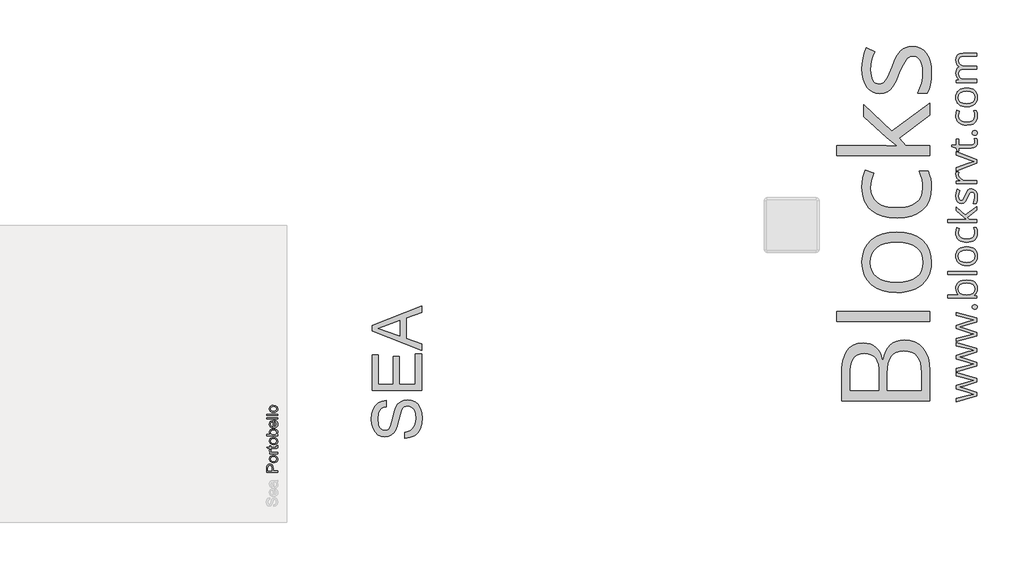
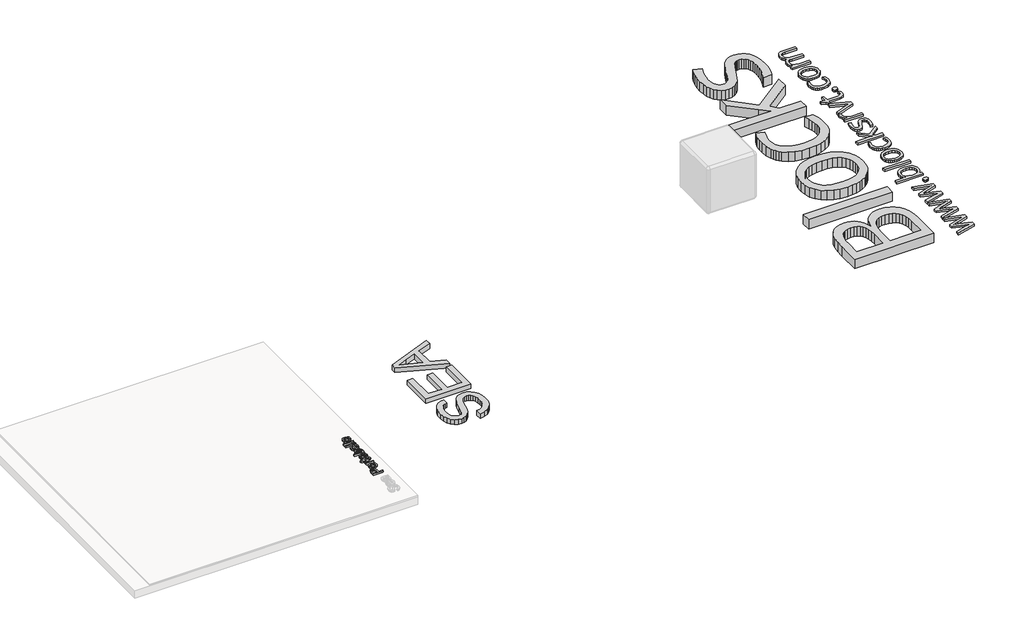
# One storey, part 7 of 7: 4 proxies.
"""IFC4 building model written with IfcOpenShell, lengths in millimetres."""

import ifcopenshell
import ifcopenshell.guid

model = None  # the IFC model being written
_history = None  # IfcOwnerHistory: only IFC2X3 demands one
_inside = {}  # id of a spatial element -> (the spatial element, [elements in it])
_under = {}  # id of a project, library or spatial element -> (it, [spatial elements below it])
_declared = {}  # id of a project -> (the project, [libraries it declares])
_typed = {}  # id of a type object -> (the type object, [elements of that type])
_made_of = {}  # id of a material, layer set ... -> (it, [elements and type objects made of it])


def new_model(schema):
    """Start an empty IFC model of exactly this schema.

    Asked for "IFC4X3", IfcOpenShell would pick the latest addendum, in which some entities
    have other attributes; the version numbers below select the first issue.
    IFC2X3 requires an IfcOwnerHistory on every rooted entity: one is made here for all.
    """
    global model, _history
    if schema == "IFC4X3":
        model = ifcopenshell.file(schema_version=(4, 3, 0, 0))
    else:
        model = ifcopenshell.file(schema=schema)
    _inside.clear()
    _under.clear()
    _declared.clear()
    _typed.clear()
    _made_of.clear()
    _history = None
    if model.schema == "IFC2X3":
        org = make("IfcOrganization", Name="unknown")
        user = make(
            "IfcPersonAndOrganization",
            ThePerson=make("IfcPerson", FamilyName="unknown"),
            TheOrganization=org,
        )
        app = make(
            "IfcApplication",
            ApplicationDeveloper=org,
            Version="unknown",
            ApplicationFullName="unknown",
            ApplicationIdentifier="unknown",
        )
        _history = make(
            "IfcOwnerHistory",
            OwningUser=user,
            OwningApplication=app,
            ChangeAction="ADDED",
            CreationDate=0,
        )
    return model


def make(cls, **values):
    """One entity of the class cls with the attributes given. An attribute that is None is left unset."""
    return model.create_entity(
        cls, **{name: value for name, value in values.items() if value is not None}
    )


def rooted(cls, **values):
    """An entity with a GlobalId (a new one), such as an element, a storey or a relation."""
    return make(cls, GlobalId=ifcopenshell.guid.new(), OwnerHistory=_history, **values)


def si_unit(unit_type, name, prefix=None):
    """IfcSIUnit, for example si_unit("LENGTHUNIT", "METRE", prefix="MILLI")."""
    return make("IfcSIUnit", UnitType=unit_type, Prefix=prefix, Name=name)


def assignment(units):
    """IfcUnitAssignment: the units of a project."""
    return None if units is None else make("IfcUnitAssignment", Units=units)


def point(xyz):
    """IfcCartesianPoint."""
    return None if xyz is None else make("IfcCartesianPoint", Coordinates=xyz)


def direction(xyz):
    """IfcDirection."""
    return None if xyz is None else make("IfcDirection", DirectionRatios=xyz)


def frame(location, z_axis=None, x_axis=None):
    """IfcAxis2Placement3D, a coordinate frame: its origin and axes. An axis left out is left unset."""
    return make(
        "IfcAxis2Placement3D",
        Location=point(location),
        Axis=direction(z_axis),
        RefDirection=direction(x_axis),
    )


def origin():
    """The frame at (0, 0, 0) with its axes left unset."""
    return frame((0.0, 0.0, 0.0))


def origin_with_axes():
    """The frame at (0, 0, 0) with the z axis (0, 0, 1) and the x axis (1, 0, 0) written out."""
    return frame((0.0, 0.0, 0.0), z_axis=(0.0, 0.0, 1.0), x_axis=(1.0, 0.0, 0.0))


def place(relative_to, where):
    """IfcLocalPlacement: puts the frame where relative to a parent placement (None: the world)."""
    return make(
        "IfcLocalPlacement", PlacementRelTo=relative_to, RelativePlacement=where
    )


def context(
    kind, dimensions, precision=None, world=None, true_north=None, identifier=None
):
    """IfcGeometricRepresentationContext, for example the 3D "Model" context."""
    return make(
        "IfcGeometricRepresentationContext",
        ContextIdentifier=identifier,
        ContextType=kind,
        CoordinateSpaceDimension=dimensions,
        Precision=precision,
        WorldCoordinateSystem=world,
        TrueNorth=true_north,
    )


def project(units=None, contexts=None):
    """IfcProject with its units and contexts."""
    return rooted(
        "IfcProject",
        Name="project",
        RepresentationContexts=contexts,
        UnitsInContext=assignment(units),
    )


def spatial(cls, under=None, at=None, **own):
    """A site, building, storey or space (cls), placed at a placement, below another one or the project."""
    s = rooted(cls, ObjectPlacement=at, **own)
    if under is not None:
        _under.setdefault(under.id(), (under, []))[1].append(s)
    return s


def polyline(points):
    """IfcPolyline through the points."""
    return make("IfcPolyline", Points=[point(p) for p in points])


def outline(outer, holes=None, kind="AREA"):
    """IfcArbitraryClosedProfileDef: a profile drawn as a closed curve; with holes, ...WithVoids."""
    if holes is None:
        return make("IfcArbitraryClosedProfileDef", ProfileType=kind, OuterCurve=outer)
    return make(
        "IfcArbitraryProfileDefWithVoids",
        ProfileType=kind,
        OuterCurve=outer,
        InnerCurves=holes,
    )


def extrude(swept, where, along, depth):
    """IfcExtrudedAreaSolid: the profile swept, set in the frame where, extruded along a direction by depth."""
    return make(
        "IfcExtrudedAreaSolid",
        SweptArea=swept,
        Position=where,
        ExtrudedDirection=direction(along),
        Depth=depth,
    )


def shape(context_of_items, identifier, shape_type, items):
    """IfcShapeRepresentation: the items that make up one representation, for example the "Body"."""
    return make(
        "IfcShapeRepresentation",
        ContextOfItems=context_of_items,
        RepresentationIdentifier=identifier,
        RepresentationType=shape_type,
        Items=items,
    )


def made_of(thing, what):
    """Note that an element or type object is made of a material, layer set ...; save() writes the relation."""
    if what is not None:
        _made_of.setdefault(what.id(), (what, []))[1].append(thing)
    return thing


def element(
    cls,
    number,
    at=None,
    inside=None,
    cuts=None,
    type_object=None,
    material=None,
    context=None,
    identifier="Body",
    shape_type=None,
    held_by="IfcProductDefinitionShape",
    body=None,
    shapes=None,
    **own,
):
    """One element of the class cls, such as IfcWall. Its Tag is "e" and its number.

    at: its placement. inside: the storey or other place that contains it. cuts: it is an
    opening in that element (IfcRelVoidsElement). A single representation is given by context,
    identifier, shape_type and body (its items); several are given by shapes. held_by: the class
    of the entity that holds the representations. save() writes the other relations.
    """
    e = rooted(cls, Tag="e%d" % number, ObjectPlacement=at, **own)
    if body is not None:
        shapes = [shape(context, identifier, shape_type, body)]
    if shapes is not None:
        e.Representation = make(held_by, Representations=shapes)
    if inside is not None:
        _inside.setdefault(inside.id(), (inside, []))[1].append(e)
    if cuts is not None:
        rooted(
            "IfcRelVoidsElement", RelatingBuildingElement=cuts, RelatedOpeningElement=e
        )
    if type_object is not None:
        _typed.setdefault(type_object.id(), (type_object, []))[1].append(e)
    return made_of(e, material)


def aggregate(whole, parts):
    """IfcRelAggregates: a whole, such as a stair, and the parts it consists of."""
    return rooted("IfcRelAggregates", RelatingObject=whole, RelatedObjects=parts)


def save(model, path):
    """Write the relations noted so far, then the file.

    IfcRelAggregates (storeys below a building ...), IfcRelContainedInSpatialStructure (elements
    in a storey), IfcRelDefinesByType, IfcRelAssociatesMaterial and IfcRelDeclares: one each for
    every whole, place, type object, material and project.
    """
    for whole, parts in _under.values():
        aggregate(whole, parts)
    for where, things in _inside.values():
        rooted(
            "IfcRelContainedInSpatialStructure",
            RelatedElements=things,
            RelatingStructure=where,
        )
    for kind, things in _typed.values():
        rooted("IfcRelDefinesByType", RelatedObjects=things, RelatingType=kind)
    for what, things in _made_of.values():
        rooted("IfcRelAssociatesMaterial", RelatedObjects=things, RelatingMaterial=what)
    for by, libraries in _declared.values():
        rooted("IfcRelDeclares", RelatingContext=by, RelatedDefinitions=libraries)
    model.write(path)


model = new_model("IFC4")

# Units and contexts
model_context = context("Model", 3, world=origin())
ifc_project = project(units=[si_unit("LENGTHUNIT", "METRE", prefix="MILLI")], contexts=[model_context])

# Site, building, storey
site = spatial("IfcSite", under=ifc_project)
building = spatial("IfcBuilding", under=site)
storey = spatial("IfcBuildingStorey", under=building, Name="PORTOBELLO - SHOWROOM", Elevation=0.0)

# Proxies
placement = place(None, origin())
element("IfcBuildingElementProxy", 1, Name="10mm Arial", ObjectType="10mm Arial", at=placement, inside=storey, context=model_context, shape_type="SweptSolid", body=[
    extrude(outline(polyline([(77181.6975876, 8923.0326536), (77081.2412774, 8923.0326536), (77081.2412774, 8960.2623116), (77082.1977706, 8975.271897), (77086.8943974, 8987.4733165), (77096.6064821, 8995.3827794), (77110.303955, 8998.3748863), (77122.1436239, 8996.354601), (77132.0089927, 8990.2937451), (77138.6676569, 8978.959914), (77140.8872116, 8961.1207029), (77140.8872116, 8935.5896924), (77181.6975876, 8935.5896924), (77181.6975876, 8923.0326536)]), holes=[polyline([(77128.3301728, 8935.5896924), (77128.3301728, 8961.8564669), (77123.7193851, 8980.3486685), (77118.1704984, 8984.4505527), (77110.7454134, 8985.8178475), (77100.3466157, 8982.5927487), (77094.6567075, 8974.1192), (77093.7983162, 8961.5621613), (77093.7983162, 8935.5896924), (77128.3301728, 8935.5896924)])]), frame((0.0, 0.0, 15.0), z_axis=(0.0, 0.0, 1.0), x_axis=(1.0, 0.0, 0.0)), (0.0, 0.0, 1.0), 20.0),
    extrude(outline(polyline([(77144.8112862, 9010.931925), (77127.0241917, 9013.6481204), (77114.5223352, 9021.7967066), (77108.3971, 9031.8644106), (77106.355355, 9043.9186773), (77108.8416241, 9057.1103125), (77116.3004316, 9067.647066), (77128.1431661, 9074.5540504), (77143.7812166, 9076.8563786), (77166.1239164, 9072.7851512), (77178.7667943, 9060.9270882), (77183.2672174, 9043.9186773), (77180.7901453, 9030.5676265), (77173.358929, 9020.0431358), (77161.2678741, 9013.2097277), (77144.8112862, 9010.931925)]), holes=[polyline([(77144.7867607, 9023.4889638), (77156.1512487, 9024.9420977), (77164.2477183, 9029.3014993), (77169.0945635, 9035.8620616), (77170.7101786, 9043.9186773), (77169.0853665, 9051.9385048), (77164.2109301, 9058.4868043), (77156.0071616, 9062.8462059), (77144.3943533, 9064.2993398), (77133.3609591, 9062.8370089), (77125.3748541, 9058.4500161), (77120.5280088, 9051.8925195), (77118.9123937, 9043.9186773), (77120.5218774, 9035.8620616), (77125.3503286, 9029.3014993), (77133.4284041, 9024.9420977), (77144.7867607, 9023.4889638)])]), frame((0.0, 0.0, 15.0), z_axis=(0.0, 0.0, 1.0), x_axis=(1.0, 0.0, 0.0)), (0.0, 0.0, 1.0), 20.0),
    extrude(outline(polyline([(77181.6975876, 9090.9830472), (77107.9249848, 9090.9830472), (77107.9249848, 9101.9704561), (77118.8388173, 9101.9704561), (77108.7833761, 9109.7695544), (77106.355355, 9117.6177036), (77110.2303786, 9130.2237933), (77121.4875677, 9126.0299386), (77118.9123937, 9117.2007707), (77121.3894658, 9110.1006482), (77128.2565964, 9105.5756997), (77142.9228253, 9103.5400859), (77181.6975876, 9103.5400859), (77181.6975876, 9090.9830472)])), frame((0.0, 0.0, 15.0), z_axis=(0.0, 0.0, 1.0), x_axis=(1.0, 0.0, 0.0)), (0.0, 0.0, 1.0), 20.0),
    extrude(outline(polyline([(77171.2252134, 9164.7556499), (77182.0654696, 9166.3252798), (77183.2672174, 9156.9320262), (77181.1825528, 9146.4106011), (77175.7133738, 9141.1621513), (77161.4640778, 9139.6415724), (77120.4820236, 9139.6415724), (77120.4820236, 9130.2237933), (77110.2303786, 9130.2237933), (77107.9249848, 9130.2237933), (77107.9249848, 9139.6415724), (77089.9968689, 9139.6415724), (77082.6147035, 9152.1986112), (77107.9249848, 9152.1986112), (77107.9249848, 9164.7556499), (77120.4820236, 9164.7556499), (77120.4820236, 9152.1986112), (77161.0961958, 9152.1986112), (77167.5709189, 9152.8607988), (77169.8640501, 9155.0067771), (77170.7101786, 9159.286471), (77171.2252134, 9164.7556499)])), frame((0.0, 0.0, 15.0), z_axis=(0.0, 0.0, 1.0), x_axis=(1.0, 0.0, 0.0)), (0.0, 0.0, 1.0), 20.0),
    extrude(outline(polyline([(77144.8112862, 9174.173429), (77127.0241917, 9176.8896244), (77114.5223352, 9185.0382106), (77108.3971, 9195.1059145), (77106.355355, 9207.1601813), (77108.8416241, 9220.3518165), (77116.3004316, 9230.8885699), (77128.1431661, 9237.7955544), (77143.7812166, 9240.0978826), (77166.1239164, 9236.0266551), (77178.7667943, 9224.1685922), (77183.2672174, 9207.1601813), (77180.7901453, 9193.8091305), (77173.358929, 9183.2846398), (77161.2678741, 9176.4512317), (77144.8112862, 9174.173429)]), holes=[polyline([(77144.7867607, 9186.7304678), (77156.1512487, 9188.1836017), (77164.2477183, 9192.5430033), (77169.0945635, 9199.1035656), (77170.7101786, 9207.1601813), (77169.0853665, 9215.1800088), (77164.2109301, 9221.7283083), (77156.0071616, 9226.0877099), (77144.3943533, 9227.5408438), (77133.3609591, 9226.0785129), (77125.3748541, 9221.6915201), (77120.5280088, 9215.1340235), (77118.9123937, 9207.1601813), (77120.5218774, 9199.1035656), (77125.3503286, 9192.5430033), (77133.4284041, 9188.1836017), (77144.7867607, 9186.7304678)])]), frame((0.0, 0.0, 15.0), z_axis=(0.0, 0.0, 1.0), x_axis=(1.0, 0.0, 0.0)), (0.0, 0.0, 1.0), 20.0),
    extrude(outline(polyline([(77181.6975876, 9266.7815899), (77181.6975876, 9254.2245512), (77081.2412774, 9254.2245512), (77081.2412774, 9266.7815899), (77118.4954608, 9266.7815899), (77109.3903814, 9275.5739696), (77106.355355, 9286.5000649), (77109.0899444, 9299.0816291), (77116.7786781, 9308.8427647), (77128.734843, 9314.8392412), (77143.7076402, 9317.009745), (77160.4707964, 9314.7625992), (77172.9419961, 9308.0211616), (77180.6859121, 9298.1282016), (77183.2672174, 9286.4264885), (77179.9378854, 9275.2612699), (77169.9498892, 9266.7815899), (77181.6975876, 9266.7815899)]), holes=[polyline([(77144.2962514, 9266.7815899), (77161.8564853, 9270.2151552), (77168.4967553, 9276.7941116), (77170.7101786, 9285.347368), (77169.0792351, 9292.5946433), (77164.1864046, 9298.7873235), (77156.0623439, 9303.0363606), (77144.7377098, 9304.4527062), (77133.2475288, 9303.0946085), (77125.2154386, 9299.0203155), (77120.4881549, 9293.0207732), (77118.9123937, 9285.8869282), (77120.5433372, 9278.6396529), (77125.4361678, 9272.4469727), (77133.4130757, 9268.1979356), (77144.2962514, 9266.7815899)])]), frame((0.0, 0.0, 15.0), z_axis=(0.0, 0.0, 1.0), x_axis=(1.0, 0.0, 0.0)), (0.0, 0.0, 1.0), 20.0),
    extrude(outline(polyline([(77159.7227697, 9382.7870458), (77161.2923996, 9395.0988299), (77170.5691572, 9390.6627861), (77177.5037328, 9383.5841234), (77181.8263463, 9374.0222572), (77183.2672174, 9362.1366031), (77180.7809483, 9347.4029292), (77173.3221408, 9336.0660324), (77161.375173, 9328.8371512), (77145.4244228, 9326.4275241), (77128.9371781, 9328.8616766), (77116.6069999, 9336.1641342), (77108.9182662, 9347.3477469), (77106.355355, 9361.4253646), (77108.9121348, 9375.0645895), (77116.5824744, 9385.9630936), (77128.8881272, 9393.1092014), (77145.3508464, 9395.4912373), (77148.7353608, 9395.4176609), (77148.7353608, 9338.9845629), (77158.1347458, 9341.1581323), (77165.0447959, 9346.2073127), (77169.293833, 9353.4944419), (77170.7101786, 9362.3818578), (77168.0859537, 9374.6936419), (77159.7227697, 9382.7870458)]), holes=[polyline([(77136.178322, 9338.9845629), (77136.178322, 9382.9341986), (77124.7985056, 9377.906478), (77120.3839217, 9370.5856262), (77118.9123937, 9361.3763136), (77123.6090205, 9345.9130071), (77129.0996593, 9341.0477677), (77136.178322, 9338.9845629)])]), frame((0.0, 0.0, 15.0), z_axis=(0.0, 0.0, 1.0), x_axis=(1.0, 0.0, 0.0)), (0.0, 0.0, 1.0), 20.0),
    extrude(outline(polyline([(77181.6975876, 9408.0482761), (77081.2412774, 9408.0482761), (77081.2412774, 9420.6053149), (77181.6975876, 9420.6053149), (77181.6975876, 9408.0482761)])), frame((0.0, 0.0, 15.0), z_axis=(0.0, 0.0, 1.0), x_axis=(1.0, 0.0, 0.0)), (0.0, 0.0, 1.0), 20.0),
    extrude(outline(polyline([(77181.6975876, 9439.440873), (77081.2412774, 9439.440873), (77081.2412774, 9451.9979118), (77181.6975876, 9451.9979118), (77181.6975876, 9439.440873)])), frame((0.0, 0.0, 15.0), z_axis=(0.0, 0.0, 1.0), x_axis=(1.0, 0.0, 0.0)), (0.0, 0.0, 1.0), 20.0),
    extrude(outline(polyline([(77144.8112862, 9467.6942102), (77127.0241917, 9470.4104056), (77114.5223352, 9478.5589918), (77108.3971, 9488.6266958), (77106.355355, 9500.6809625), (77108.8416241, 9513.8725977), (77116.3004316, 9524.4093512), (77128.1431661, 9531.3163356), (77143.7812166, 9533.6186638), (77166.1239164, 9529.5474364), (77178.7667943, 9517.6893734), (77183.2672174, 9500.6809625), (77180.7901453, 9487.3299117), (77173.358929, 9476.805421), (77161.2678741, 9469.9720129), (77144.8112862, 9467.6942102)]), holes=[polyline([(77144.7867607, 9480.251249), (77156.1512487, 9481.7043829), (77164.2477183, 9486.0637845), (77169.0945635, 9492.6243468), (77170.7101786, 9500.6809625), (77169.0853665, 9508.70079), (77164.2109301, 9515.2490895), (77156.0071616, 9519.6084911), (77144.3943533, 9521.061625), (77133.3609591, 9519.5992941), (77125.3748541, 9515.2123013), (77120.5280088, 9508.6548047), (77118.9123937, 9500.6809625), (77120.5218774, 9492.6243468), (77125.3503286, 9486.0637845), (77133.4284041, 9481.7043829), (77144.7867607, 9480.251249)])]), frame((0.0, 0.0, 15.0), z_axis=(0.0, 0.0, 1.0), x_axis=(1.0, 0.0, 0.0)), (0.0, 0.0, 1.0), 20.0),
])
element("IfcBuildingElementProxy", 2, Name="25mm OpenSans", ObjectType="25mm OpenSans", at=placement, inside=storey, context=model_context, shape_type="SweptSolid", body=[
    extrude(outline(polyline([(83537.9307693, 9745.1453176), (83428.119126, 9710.6652112), (83382.3955066, 9698.4472604), (83428.4939098, 9685.0300016), (83537.9307693, 9649.5005007), (83537.9307693, 9616.594486), (83350.8387135, 9565.2491101), (83350.8387135, 9595.0818979), (83458.176784, 9622.8158965), (83507.8731113, 9633.7595825), (83482.6876423, 9641.1803011), (83458.176784, 9648.5260629), (83350.8387135, 9683.0061693), (83350.8387135, 9713.8883516), (83458.2517408, 9747.5439337), (83507.5732843, 9760.5864088), (83488.6092258, 9765.683468), (83350.8387135, 9801.4378392), (83350.8387135, 9830.9708), (83537.9307693, 9778.9508133), (83537.9307693, 9745.1453176)])), origin_with_axes(), (0.0, 0.0, 1.0), 20.0),
    extrude(outline(polyline([(83537.9307693, 10018.5875531), (83428.119126, 9984.1074466), (83382.3955066, 9971.8894959), (83428.4939098, 9958.4722371), (83537.9307693, 9922.9427361), (83537.9307693, 9890.0367214), (83350.8387135, 9838.6913456), (83350.8387135, 9868.5241333), (83458.176784, 9896.258132), (83507.8731113, 9907.2018179), (83482.6876423, 9914.6225365), (83458.176784, 9921.9682983), (83350.8387135, 9956.4484047), (83350.8387135, 9987.330587), (83458.2517408, 10020.9861692), (83507.5732843, 10034.0286442), (83488.6092258, 10039.1257034), (83350.8387135, 10074.8800747), (83350.8387135, 10104.4130354), (83537.9307693, 10052.3930487), (83537.9307693, 10018.5875531)])), origin_with_axes(), (0.0, 0.0, 1.0), 20.0),
    extrude(outline(polyline([(83537.9307693, 10292.0297885), (83428.119126, 10257.5496821), (83382.3955066, 10245.3317313), (83428.4939098, 10231.9144725), (83537.9307693, 10196.3849715), (83537.9307693, 10163.4789569), (83350.8387135, 10112.133581), (83350.8387135, 10141.9663687), (83458.176784, 10169.7003674), (83507.8731113, 10180.6440533), (83482.6876423, 10188.0647719), (83458.176784, 10195.4105337), (83350.8387135, 10229.8906401), (83350.8387135, 10260.7728224), (83458.2517408, 10294.4284046), (83507.5732843, 10307.4708796), (83488.6092258, 10312.5679388), (83350.8387135, 10348.3223101), (83350.8387135, 10377.8552708), (83537.9307693, 10325.8352842), (83537.9307693, 10292.0297885)])), origin_with_axes(), (0.0, 0.0, 1.0), 20.0),
    extrude(outline(polyline([(83518.8167973, 10407.0134478), (83508.4071782, 10408.3158214), (83500.8646549, 10412.2229421), (83496.2829234, 10418.5661574), (83494.7556795, 10427.1768144), (83496.2829234, 10436.0404504), (83500.8646549, 10442.6928623), (83508.4071782, 10446.8529621), (83518.8167973, 10448.239662), (83529.0202853, 10446.8248533), (83536.5440694, 10442.5804272), (83541.1820185, 10435.8999065), (83542.7280015, 10427.1768144), (83537.1437234, 10412.7476394), (83529.7698528, 10408.4469957), (83518.8167973, 10407.0134478)])), origin_with_axes(), (0.0, 0.0, 1.0), 20.0),
    extrude(outline(polyline([(83346.0414813, 10595.3797684), (83347.6413395, 10612.9641542), (83352.4409141, 10628.4638053), (83360.4402051, 10641.8787217), (83371.6392125, 10653.2089035), (83385.7615333, 10662.210741), (83402.5307644, 10668.640625), (83444.0099577, 10673.7845322), (83485.6296948, 10668.593777), (83502.5183883, 10662.1053331), (83516.792965, 10653.0215116), (83528.1395435, 10641.6374547), (83536.2442424, 10628.2483047), (83541.1070618, 10612.8540615), (83542.7280015, 10595.4547252), (83541.0133658, 10577.8117794), (83535.8694586, 10561.7616646), (83527.1651057, 10547.7541214), (83514.7691326, 10536.2388902), (83514.7691326, 10534.1401011), (83537.9307693, 10528.1435609), (83537.9307693, 10507.8302808), (83274.0829983, 10507.8302808), (83274.0829983, 10536.1639334), (83336.6718872, 10536.1639334), (83374.4500908, 10534.8147119), (83362.0213241, 10547.369968), (83353.1436337, 10560.9746187), (83347.8170194, 10576.9778855), (83346.0414813, 10595.3797684)]), holes=[polyline([(83370.0276423, 10591.4070605), (83374.2626989, 10566.1372651), (83386.9678685, 10549.0939734), (83409.6985039, 10539.3964434), (83444.0099577, 10536.1639334), (83478.4619553, 10539.4901394), (83501.4643089, 10549.4687571), (83514.4224576, 10566.7743975), (83518.7418405, 10592.0816713), (83513.8977604, 10615.1589816), (83499.3655199, 10631.471445), (83475.7635122, 10641.168975), (83443.7101307, 10644.401485), (83411.2632261, 10641.168975), (83388.2796117, 10631.471445), (83374.5906347, 10614.990329), (83370.0276423, 10591.4070605)])]), origin_with_axes(), (0.0, 0.0, 1.0), 20.0),
    extrude(outline(polyline([(83537.9307693, 10751.0649447), (83537.9307693, 10722.731292), (83274.0829983, 10722.731292), (83274.0829983, 10751.0649447), (83537.9307693, 10751.0649447)])), origin_with_axes(), (0.0, 0.0, 1.0), 20.0),
    extrude(outline(polyline([(83444.2348279, 10976.0101608), (83466.1620206, 10974.5695857), (83485.5453685, 10970.2478604), (83502.3848716, 10963.0449849), (83516.6805298, 10952.9609592), (83528.0762987, 10940.3424583), (83536.2161336, 10925.5361572), (83541.1000346, 10908.5420558), (83542.7280015, 10889.3601542), (83539.739101, 10865.6644506), (83530.7723994, 10844.7983645), (83516.2214197, 10827.5676808), (83496.4796849, 10814.7781848), (83472.2499144, 10806.8515082), (83444.2348279, 10804.2092826), (83422.3170048, 10805.6381457), (83402.9617657, 10809.9247351), (83386.1691106, 10817.0690506), (83371.9390395, 10827.0710923), (83360.6088578, 10839.6122941), (83352.5158709, 10854.3740897), (83347.6600787, 10871.3564791), (83346.0414813, 10890.5594622), (83347.6975571, 10909.1557642), (83352.6657844, 10925.7422882), (83360.9461632, 10940.3190343), (83372.5386936, 10952.8860025), (83386.9561565, 10963.0028217), (83403.7113333, 10970.2291212), (83422.8042237, 10974.5649009), (83444.2348279, 10976.0101608)]), holes=[polyline([(83444.0099577, 10833.6672866), (83476.1664048, 10837.2464716), (83499.6278685, 10847.9840265), (83513.9633475, 10865.655081), (83518.7418405, 10890.034765), (83513.9820867, 10914.4331881), (83499.7028252, 10932.1604602), (83476.2601007, 10942.9542327), (83444.0099577, 10946.5521568), (83412.0877504, 10942.9542327), (83388.8792657, 10932.1604602), (83374.7405482, 10914.3394922), (83370.0276423, 10889.6599812), (83374.674961, 10865.3271452), (83388.6169171, 10847.7966346), (83411.7598146, 10837.1996236), (83444.0099577, 10833.6672866)])]), origin_with_axes(), (0.0, 0.0, 1.0), 20.0),
    extrude(outline(polyline([(83542.7280015, 11101.4128088), (83541.1421977, 11082.0692817), (83536.3847863, 11065.0400443), (83528.4557673, 11050.3250967), (83517.3551406, 11037.9244389), (83503.3546246, 11028.0863651), (83486.7259374, 11021.0591694), (83445.5840495, 11015.437413), (83423.1368443, 11016.8639337), (83403.3927671, 11021.1434958), (83386.3518177, 11028.2760993), (83372.0139963, 11038.2617443), (83360.651021, 11050.88493), (83352.5346101, 11065.9301558), (83347.6647635, 11083.3974217), (83346.0414813, 11103.2867276), (83348.8148812, 11130.5335074), (83355.3361187, 11151.8587037), (83378.7975824, 11143.0887635), (83372.5386936, 11122.3632213), (83370.0276423, 11102.5371601), (83374.7171242, 11077.3188975), (83388.7855698, 11059.3058527), (83412.2329791, 11048.4980259), (83445.0593522, 11044.8954169), (83476.5224493, 11048.4090147), (83499.7028252, 11058.9498082), (83513.9820867, 11076.3866229), (83518.7418405, 11100.5882845), (83516.2120501, 11124.5557063), (83508.6226789, 11149.0853038), (83533.2834506, 11149.0853038), (83540.3668638, 11127.6851508), (83542.7280015, 11101.4128088)])), origin_with_axes(), (0.0, 0.0, 1.0), 20.0),
    extrude(outline(polyline([(83444.0849144, 11220.669003), (83416.2010023, 11243.5308127), (83350.8387135, 11303.4962152), (83350.8387135, 11336.8519704), (83430.5926989, 11261.5953902), (83537.9307693, 11342.0989431), (83537.9307693, 11307.9936204), (83451.5805897, 11242.4064614), (83469.5702105, 11221.4185706), (83537.9307693, 11221.4185706), (83537.9307693, 11193.3847449), (83274.0829983, 11193.3847449), (83274.0829983, 11221.4185706), (83415.076651, 11221.4185706), (83444.0849144, 11220.669003)])), origin_with_axes(), (0.0, 0.0, 1.0), 20.0),
    extrude(outline(polyline([(83487.4848745, 11502.3564813), (83510.974447, 11497.4561836), (83528.3737833, 11482.7552904), (83539.139447, 11459.2095003), (83542.7280015, 11427.7745119), (83539.7672098, 11394.4749744), (83530.8848345, 11369.3832012), (83504.3501439, 11369.3832012), (83514.8815678, 11398.5413782), (83518.7418405, 11428.5240795), (83516.9616177, 11448.3407711), (83511.620949, 11462.9667075), (83502.6261386, 11471.9896267), (83489.8834906, 11474.9972664), (83479.5956762, 11472.6080199), (83470.919432, 11465.4402804), (83452.3301573, 11428.2242525), (83435.090104, 11390.8208326), (83418.4122265, 11374.2928686), (83396.0376357, 11368.858504), (83375.3120934, 11373.543301), (83359.4587401, 11387.5976923), (83349.395796, 11409.8223696), (83346.0414813, 11439.0180249), (83349.1521866, 11469.0569437), (83358.4843023, 11498.4587301), (83381.6459391, 11488.2646117), (83372.9322165, 11461.2052238), (83370.0276423, 11436.8442791), (83371.6298429, 11419.023311), (83376.4364447, 11406.186967), (83384.0726639, 11398.4289431), (83394.1637168, 11395.8429351), (83407.1687135, 11399.7032079), (83417.3628319, 11412.1835073), (83431.4172231, 11445.2394354), (83443.747609, 11473.3201091), (83456.1529517, 11490.5507927), (83470.2073429, 11499.4050591), (83487.4848745, 11502.3564813)])), origin_with_axes(), (0.0, 0.0, 1.0), 20.0),
    extrude(outline(polyline([(83346.0414813, 11634.8050641), (83347.9154002, 11657.4420035), (83372.5761719, 11653.4692956), (83370.0276423, 11632.7812317), (83374.721809, 11611.4466659), (83388.804309, 11593.4664147), (83409.8952654, 11581.2390944), (83435.6148013, 11577.1633209), (83537.9307693, 11577.1633209), (83537.9307693, 11548.8296682), (83350.8387135, 11548.8296682), (83350.8387135, 11572.2161752), (83384.4193389, 11575.4393156), (83368.0975059, 11588.4255731), (83356.0107295, 11602.1988765), (83348.5337934, 11617.7711419), (83346.0414813, 11634.8050641)])), origin_with_axes(), (0.0, 0.0, 1.0), 20.0),
    extrude(outline(polyline([(83537.9307693, 11734.422589), (83350.8387135, 11662.464106), (83350.8387135, 11693.2713315), (83461.7747082, 11734.122762), (83512.2955598, 11750.3134207), (83474.8171832, 11763.7306795), (83350.8387135, 11809.1544719), (83350.8387135, 11839.9616974), (83537.9307693, 11768.0032144), (83537.9307693, 11734.422589)])), origin_with_axes(), (0.0, 0.0, 1.0), 20.0),
    extrude(outline(polyline([(83518.7418405, 11931.3339795), (83517.6174892, 11946.0255031), (83515.2938299, 11957.2690161), (83537.4810288, 11957.2690161), (83541.2288665, 11943.5519302), (83542.7280015, 11927.2863148), (83539.1675558, 11903.2814146), (83528.4862184, 11886.1350573), (83510.6839896, 11875.847243), (83485.7608692, 11872.4179715), (83374.8248745, 11872.4179715), (83374.8248745, 11845.2836269), (83360.8079617, 11845.2836269), (83348.6649677, 11872.268058), (83307.6636237, 11884.3360953), (83307.6636237, 11900.8265809), (83350.8387135, 11900.8265809), (83350.8387135, 11955.9197945), (83374.8248745, 11955.9197945), (83374.8248745, 11900.8265809), (83484.0368638, 11900.8265809), (83498.8689314, 11902.8597829), (83509.7845085, 11908.9593887), (83516.5025075, 11918.6194402), (83518.7418405, 11931.3339795)])), origin_with_axes(), (0.0, 0.0, 1.0), 20.0),
    extrude(outline(polyline([(83518.8167973, 11990.1000739), (83508.4071782, 11991.4024475), (83500.8646549, 11995.3095683), (83496.2829234, 12001.6527835), (83494.7556795, 12010.2634405), (83496.2829234, 12019.1270766), (83500.8646549, 12025.7794884), (83508.4071782, 12029.9395882), (83518.8167973, 12031.3262881), (83529.0202853, 12029.9114794), (83536.5440694, 12025.6670533), (83541.1820185, 12018.9865327), (83542.7280015, 12010.2634405), (83537.1437234, 11995.8342655), (83529.7698528, 11991.5336218), (83518.8167973, 11990.1000739)])), origin_with_axes(), (0.0, 0.0, 1.0), 20.0),
    extrude(outline(polyline([(83542.7280015, 12166.3983573), (83541.1421977, 12147.0548302), (83536.3847863, 12130.0255928), (83528.4557673, 12115.3106452), (83517.3551406, 12102.9099874), (83503.3546246, 12093.0719135), (83486.7259374, 12086.0447179), (83445.5840495, 12080.4229614), (83423.1368443, 12081.8494822), (83403.3927671, 12086.1290443), (83386.3518177, 12093.2616478), (83372.0139963, 12103.2472928), (83360.651021, 12115.8704785), (83352.5346101, 12130.9157043), (83347.6647635, 12148.3829702), (83346.0414813, 12168.2722761), (83348.8148812, 12195.5190559), (83355.3361187, 12216.8442521), (83378.7975824, 12208.074312), (83372.5386936, 12187.3487698), (83370.0276423, 12167.5227086), (83374.7171242, 12142.304446), (83388.7855698, 12124.2914012), (83412.2329791, 12113.4835744), (83445.0593522, 12109.8809654), (83476.5224493, 12113.3945632), (83499.7028252, 12123.9353566), (83513.9820867, 12141.3721713), (83518.7418405, 12165.573833), (83516.2120501, 12189.5412548), (83508.6226789, 12214.0708523), (83533.2834506, 12214.0708523), (83540.3668638, 12192.6706993), (83542.7280015, 12166.3983573)])), origin_with_axes(), (0.0, 0.0, 1.0), 20.0),
    extrude(outline(polyline([(83444.2348279, 12419.9770531), (83466.1620206, 12418.536478), (83485.5453685, 12414.2147527), (83502.3848716, 12407.0118772), (83516.6805298, 12396.9278515), (83528.0762987, 12384.3093506), (83536.2161336, 12369.5030495), (83541.1000346, 12352.5089481), (83542.7280015, 12333.3270465), (83539.739101, 12309.6313429), (83530.7723994, 12288.7652568), (83516.2214197, 12271.5345732), (83496.4796849, 12258.7450771), (83472.2499144, 12250.8184005), (83444.2348279, 12248.176175), (83422.3170048, 12249.6050381), (83402.9617657, 12253.8916274), (83386.1691106, 12261.0359429), (83371.9390395, 12271.0379847), (83360.6088578, 12283.5791864), (83352.5158709, 12298.340982), (83347.6600787, 12315.3233714), (83346.0414813, 12334.5263546), (83347.6975571, 12353.1226565), (83352.6657844, 12369.7091806), (83360.9461632, 12384.2859266), (83372.5386936, 12396.8528948), (83386.9561565, 12406.9697141), (83403.7113333, 12414.1960135), (83422.8042237, 12418.5317932), (83444.2348279, 12419.9770531)]), holes=[polyline([(83444.0099577, 12277.6341789), (83476.1664048, 12281.2133639), (83499.6278685, 12291.9509188), (83513.9633475, 12309.6219733), (83518.7418405, 12334.0016573), (83513.9820867, 12358.4000804), (83499.7028252, 12376.1273526), (83476.2601007, 12386.921125), (83444.0099577, 12390.5190492), (83412.0877504, 12386.921125), (83388.8792657, 12376.1273526), (83374.7405482, 12358.3063845), (83370.0276423, 12333.6268735), (83374.674961, 12309.2940375), (83388.6169171, 12291.7635269), (83411.7598146, 12281.1665159), (83444.0099577, 12277.6341789)])]), origin_with_axes(), (0.0, 0.0, 1.0), 20.0),
    extrude(outline(polyline([(83537.9307693, 12709.0102932), (83415.1516077, 12709.0102932), (83395.4098729, 12706.6116771), (83381.3086337, 12699.4158288), (83372.8478902, 12687.1603997), (83370.0276423, 12669.5830411), (83373.8598063, 12646.5151003), (83385.3562983, 12630.3806592), (83404.8169454, 12620.8798907), (83432.5415744, 12617.7129679), (83537.9307693, 12617.7129679), (83537.9307693, 12589.3043585), (83415.1516077, 12589.3043585), (83395.4098729, 12586.9057424), (83381.3086337, 12579.7098941), (83372.8478902, 12567.4169865), (83370.0276423, 12549.7271928), (83374.0565678, 12526.5468169), (83386.1433443, 12510.5248109), (83407.3935838, 12501.1926952), (83438.9128985, 12498.0819899), (83537.9307693, 12498.0819899), (83537.9307693, 12469.7483372), (83350.8387135, 12469.7483372), (83350.8387135, 12492.8350172), (83374.8248745, 12497.4073791), (83362.7474677, 12508.491609), (83353.6495918, 12521.5059752), (83347.9435089, 12537.0313927), (83346.0414813, 12554.2995547), (83348.0090961, 12574.3973342), (83353.9119404, 12590.6910584), (83363.7500143, 12603.1807274), (83377.5233176, 12611.8663411), (83364.4995818, 12623.4940075), (83354.5115944, 12637.5390291), (83348.1590096, 12654.5823208), (83346.0414813, 12673.855576), (83350.1453636, 12701.7113794), (83362.4570103, 12721.5655494), (83383.8009457, 12733.4555643), (83415.0016942, 12737.4189026), (83537.9307693, 12737.4189026), (83537.9307693, 12709.0102932)])), origin_with_axes(), (0.0, 0.0, 1.0), 20.0),
])
element("IfcBuildingElementProxy", 3, Name="450mm Arial", ObjectType="450mm Arial", at=placement, inside=storey, context=model_context, shape_type="SweptSolid", body=[
    extrude(outline(polyline([(78335.8327221, 9232.445821), (78335.8327221, 9288.6528388), (78367.0237747, 9295.1023745), (78392.0946296, 9306.7664285), (78411.9921335, 9324.9623528), (78427.6631331, 9351.0074992), (78437.8314437, 9382.8435054), (78441.2208806, 9418.4120089), (78438.6547887, 9449.7265633), (78430.956513, 9477.1439514), (78418.7710072, 9499.3605437), (78402.7432248, 9515.0727105), (78384.3414643, 9524.4176761), (78365.0340243, 9527.5326647), (78346.2205913, 9525.1998539), (78329.9595278, 9518.2014215), (78316.0861648, 9503.984998), (78304.4358332, 9479.998214), (78282.9739738, 9398.1577222), (78268.7712728, 9344.4344617), (78255.2546926, 9310.0598085), (78236.3452027, 9282.0798013), (78213.4287672, 9262.2509095), (78186.9993931, 9250.4359089), (78157.5510873, 9246.4975754), (78124.6310102, 9251.3690333), (78093.9339646, 9265.9834068), (78067.916263, 9289.9564684), (78049.0342179, 9322.9039903), (78037.5485553, 9362.4519946), (78033.7200011, 9406.2265031), (78037.7269467, 9453.6511744), (78049.7477836, 9495.1477618), (78069.5355081, 9529.2342443), (78096.8431169, 9554.428601), (78129.9690302, 9570.3740489), (78167.2116685, 9576.7138053), (78167.2116685, 9520.5067874), (78149.2764702, 9516.7468453), (78133.6740827, 9510.1875303), (78120.404506, 9500.8288422), (78109.46774, 9488.6707812), (78100.9186746, 9473.4869274), (78094.8121992, 9455.0508609), (78089.927019, 9408.4220897), (78094.7573096, 9360.6955253), (78100.7951728, 9342.4515726), (78109.2481814, 9327.9538396), (78130.5728166, 9309.0169048), (78142.7377388, 9304.2826712), (78155.9043974, 9302.7045933), (78177.5034809, 9307.178101), (78194.8760601, 9320.5986243), (78210.4098356, 9352.3248512), (78226.272949, 9412.3741457), (78241.3401623, 9474.3445784), (78254.4862373, 9511.8342202), (78274.8777481, 9543.8760627), (78300.0446599, 9566.2298791), (78329.7125243, 9579.3622317), (78363.606893, 9583.7396825), (78398.2559946, 9578.7035557), (78430.8467337, 9563.5951752), (78458.895353, 9539.0320497), (78479.918095, 9505.631688), (78493.0504476, 9465.466175), (78497.4278984, 9420.6075956), (78492.7073871, 9365.5395383), (78478.5458533, 9320.2143967), (78467.9109806, 9301.0750563), (78454.8884074, 9284.110719), (78439.4781337, 9269.3213846), (78421.6801595, 9256.7070533), (78381.2264758, 9239.1149154), (78335.8327221, 9232.445821)])), origin_with_axes(), (0.0, 0.0, 1.0), 50.0),
    extrude(outline(polyline([(78490.4020212, 9668.0502093), (78040.7458784, 9668.0502093), (78040.7458784, 9991.240562), (78096.9528962, 9991.240562), (78096.9528962, 9724.2572272), (78230.4445636, 9724.2572272), (78230.4445636, 9977.1888075), (78286.6515815, 9977.1888075), (78286.6515815, 9724.2572272), (78434.1950033, 9724.2572272), (78434.1950033, 9998.2664392), (78490.4020212, 9998.2664392), (78490.4020212, 9668.0502093)])), origin_with_axes(), (0.0, 0.0, 1.0), 50.0),
    extrude(outline(polyline([(78490.4020212, 10030.2122247), (78040.7458784, 10209.7014321), (78040.7458784, 10257.5652208), (78490.4020212, 10437.0544282), (78490.4020212, 10377.6638097), (78349.8844765, 10326.1773031), (78349.8844765, 10140.9795705), (78490.4020212, 10089.6028432), (78490.4020212, 10030.2122247)]), holes=[polyline([(78293.6774587, 10161.6180848), (78293.6774587, 10305.6485681), (78183.1296716, 10265.1399947), (78096.9528962, 10233.6333264), (78173.4690904, 10205.6395968), (78293.6774587, 10161.6180848)])]), origin_with_axes(), (0.0, 0.0, 1.0), 50.0),
])
element("IfcBuildingElementProxy", 4, Name="80mm OpenSans", ObjectType="80mm OpenSans", at=placement, inside=storey, context=model_context, shape_type="SweptSolid", body=[
    extrude(outline(polyline([(82308.5473623, 9574.2911636), (82308.5473623, 9799.2742841), (82311.4843415, 9873.104382), (82320.295279, 9935.9527317), (82334.9801749, 9987.8193332), (82355.5390291, 10028.7041865), (82382.4375519, 10059.6739183), (82416.1414535, 10081.7951553), (82456.650734, 10095.0678975), (82503.9653934, 10099.4921449), (82537.6242263, 10097.0208759), (82568.1733165, 10089.6070692), (82595.6126642, 10077.2507246), (82619.9422691, 10059.9518421), (82640.726467, 10037.9207426), (82657.5295933, 10011.3677468), (82670.3516482, 9980.2928546), (82679.1926315, 9944.6960662), (82684.4806963, 9944.6960662), (82694.3958178, 9987.229684), (82708.3971712, 10024.0921527), (82726.4847565, 10055.2834724), (82748.6585737, 10080.8036431), (82774.9186227, 10100.6526648), (82805.2649037, 10114.8305374), (82839.6974165, 10123.3372609), (82878.2161613, 10126.1728354), (82929.4518005, 10121.6584506), (82974.7533897, 10108.115296), (83014.1209289, 10085.5433717), (83047.5544182, 10053.9426776), (83074.2125744, 10014.2446343), (83093.2541146, 9967.3806623), (83104.6790386, 9913.3507616), (83108.4873467, 9852.1549322), (83108.4873467, 9574.2911636), (82308.5473623, 9574.2911636)]), holes=[polyline([(82646.9835096, 9667.3130307), (82646.9835096, 9819.2247104), (82645.0530655, 9864.7065746), (82639.2617331, 9903.3229683), (82629.6095126, 9935.0738914), (82616.0964038, 9959.9593441), (82598.01633, 9978.7304719), (82574.6632143, 9992.1384202), (82546.0370566, 10000.1831893), (82512.1378572, 10002.864779), (82480.9352703, 9999.8752196), (82454.3897859, 9990.9065415), (82432.501404, 9975.9587447), (82415.2701247, 9955.0318292), (82402.2302376, 9927.599993), (82392.9160326, 9893.1374344), (82387.3275095, 9851.6441532), (82385.4646685, 9803.1201495), (82385.4646685, 9667.3130307), (82646.9835096, 9667.3130307)]), polyline([(82723.9008157, 9667.3130307), (83031.5700405, 9667.3130307), (83031.5700405, 9832.9256056), (83029.1588632, 9878.031897), (83021.9253314, 9917.2041384), (83009.869445, 9950.4423298), (82992.9912041, 9977.7464712), (82970.9901504, 9999.041448), (82943.5658257, 10014.2521458), (82910.71823, 10023.3785644), (82872.4473633, 10026.420704), (82836.7529259, 10023.3109613), (82806.1061867, 10013.9817334), (82780.5071458, 9998.4330201), (82759.955803, 9976.6648215), (82744.1817461, 9948.5569544), (82732.9145626, 9913.9892353), (82726.1542525, 9872.9616644), (82723.9008157, 9825.4742416), (82723.9008157, 9667.3130307)])]), origin_with_axes(), (0.0, 0.0, 1.0), 100.0),
    extrude(outline(polyline([(83108.4873467, 10387.9320431), (83108.4873467, 10297.0734751), (82262.3969786, 10297.0734751), (82262.3969786, 10387.9320431), (83108.4873467, 10387.9320431)])), origin_with_axes(), (0.0, 0.0, 1.0), 100.0),
    extrude(outline(polyline([(82808.0291194, 11109.2721551), (82878.343856, 11104.6526099), (82940.5011518, 11090.7939741), (82994.5010067, 11067.6962479), (83040.3434207, 11035.3594312), (83076.8866526, 10994.8952195), (83102.9889611, 10947.4153081), (83118.6503462, 10892.9196971), (83123.8708079, 10831.4083865), (83121.4746536, 10792.2812139), (83114.2861905, 10755.4225008), (83102.3054187, 10720.8322474), (83085.5323381, 10688.5104536), (83064.28243, 10659.1031046), (83038.8711754, 10633.2561856), (83009.2985744, 10610.9696966), (82975.5646269, 10592.2436376), (82938.2326922, 10577.4160241), (82897.8661293, 10566.8248716), (82854.4649384, 10560.4701801), (82808.0291194, 10558.3519496), (82737.7444286, 10562.9339375), (82675.6772703, 10576.6799014), (82621.8276445, 10599.5898413), (82576.1955512, 10631.663757), (82539.8626401, 10671.8800907), (82513.9105607, 10719.2172845), (82498.3393131, 10773.6753382), (82493.1488972, 10835.2542518), (82498.4594964, 10894.8876985), (82514.3912939, 10948.0763162), (82540.9442897, 10994.8201049), (82578.1184839, 11035.1190646), (82624.3514936, 11067.5610417), (82678.0809361, 11090.7338825), (82739.3068114, 11104.637587), (82808.0291194, 11109.2721551)]), holes=[polyline([(82807.3080196, 10652.8160162), (82862.3519669, 10655.6853923), (82910.4252832, 10664.2935205), (82951.5279687, 10678.6404009), (82985.6600234, 10698.7260334), (83012.4759201, 10724.3701431), (83031.6301321, 10755.392455), (83043.1226593, 10791.7929693), (83046.9535017, 10833.5716858), (83043.1376822, 10875.3654252), (83031.6902238, 10911.8110082), (83012.6111263, 10942.9084347), (82985.9003899, 10968.6577048), (82951.8434499, 10988.8484976), (82910.7257415, 11003.2704925), (82862.5472647, 11011.9236895), (82807.3080196, 11014.8080885), (82752.6321337, 11011.9236895), (82704.9419016, 11003.2704925), (82664.2373233, 10988.8484976), (82630.5183987, 10968.6577048), (82604.0705632, 10942.8333201), (82585.1792522, 10911.5105499), (82573.8444656, 10874.6893942), (82570.0662034, 10832.3698529), (82573.7918854, 10790.6286936), (82584.9689315, 10754.3408512), (82603.5973415, 10723.5063257), (82629.6771157, 10698.1251169), (82663.1331393, 10678.3023854), (82703.8902978, 10664.1432914), (82751.9485913, 10655.647835), (82807.3080196, 10652.8160162)])]), origin_with_axes(), (0.0, 0.0, 1.0), 100.0),
    extrude(outline(polyline([(83123.8708079, 11511.4054465), (83118.7855524, 11449.3758455), (83103.5297859, 11394.7675627), (83078.1035084, 11347.5805981), (83042.50672, 11307.8149517), (82997.6107494, 11276.2668379), (82944.2869255, 11253.7324708), (82882.5352483, 11240.2118506), (82812.3557179, 11235.7049772), (82740.3734381, 11240.2794537), (82677.0593781, 11254.0028832), (82622.413538, 11276.8752658), (82576.4359178, 11308.8966013), (82556.9155223, 11328.165363), (82539.9978463, 11349.375836), (82525.6828896, 11372.5280203), (82513.9706523, 11397.6219159), (82498.354336, 11453.6348409), (82493.1488972, 11517.4146111), (82495.3722881, 11561.1312831), (82502.0424607, 11604.7878636), (82511.7172156, 11643.697204), (82522.9543533, 11673.1721561), (82598.1890935, 11645.049266), (82578.1184839, 11578.5879061), (82572.0792735, 11544.7262639), (82570.0662034, 11515.0109453), (82573.8256869, 11471.6886246), (82585.1041377, 11434.1426134), (82603.9015555, 11402.3729116), (82630.2179405, 11376.3795192), (82664.0532926, 11356.1624362), (82705.4076119, 11341.7216627), (82754.2808983, 11333.0571985), (82810.6731518, 11330.1690438), (82864.4401516, 11332.9858397), (82911.5670245, 11341.4362273), (82952.0537706, 11355.5202068), (82985.9003899, 11375.2377779), (83012.6111263, 11400.4837805), (83031.6902238, 11431.153054), (83043.1376822, 11467.2455986), (83046.9535017, 11508.7614141), (83044.9254087, 11546.9646777), (83038.8411296, 11585.6186287), (83028.7006644, 11624.7232669), (83014.5040132, 11664.2785926), (83093.5846186, 11664.2785926), (83106.8348264, 11631.9192415), (83116.2992606, 11595.6539335), (83121.9779211, 11555.4826685), (83123.8708079, 11511.4054465)])), origin_with_axes(), (0.0, 0.0, 1.0), 100.0),
    extrude(outline(polyline([(82807.5483862, 11895.9919775), (82718.1320178, 11967.1404857), (82508.5323584, 12159.4337511), (82508.5323584, 12266.3968801), (82764.2824015, 12025.0688319), (83108.4873467, 12283.2225408), (83108.4873467, 12173.8557461), (82831.5850444, 11963.5349869), (82889.273024, 11896.232344), (83108.4873467, 11896.232344), (83108.4873467, 11806.3352424), (82262.3969786, 11806.3352424), (82262.3969786, 11896.232344), (82714.5265191, 11896.232344), (82807.5483862, 11891.665379), (82807.5483862, 11895.9919775)])), origin_with_axes(), (0.0, 0.0, 1.0), 100.0),
    extrude(outline(polyline([(82946.7206371, 12797.1262927), (82986.824299, 12793.1978014), (83022.0455147, 12781.4123274), (83052.3842842, 12761.7698708), (83077.8406075, 12734.2704316), (83097.9788202, 12699.6801782), (83112.3632578, 12658.7652791), (83120.9939204, 12611.5257343), (83123.8708079, 12557.9615438), (83121.4971879, 12501.2800992), (83114.3763279, 12451.1786898), (83102.508228, 12407.6573156), (83085.892888, 12370.7159766), (83000.803118, 12370.7159766), (83019.9423071, 12415.8448023), (83034.5746228, 12464.2185769), (83043.858782, 12513.2533596), (83046.9535017, 12560.3652096), (83045.5263251, 12594.2193404), (83041.2447954, 12623.9121247), (83034.1089125, 12649.4435626), (83024.1186765, 12670.813654), (83011.1989727, 12687.6918949), (82995.2746866, 12699.7477813), (82976.3458183, 12706.9813131), (82954.4123677, 12709.3924904), (82937.2712259, 12707.4770692), (82921.4220544, 12701.7308056), (82906.8648533, 12692.1536996), (82893.5996225, 12678.7457512), (82866.0776489, 12633.5868796), (82833.9887102, 12559.4037433), (82804.3034374, 12487.2336771), (82778.7043964, 12439.460819), (82753.5560428, 12408.4234841), (82725.2228319, 12386.4599877), (82692.3226561, 12373.3900548), (82653.4734073, 12369.0334105), (82618.2897489, 12372.7891383), (82587.0120474, 12384.0563219), (82559.6403029, 12402.8349611), (82536.1745153, 12429.125056), (82517.3508074, 12461.9651402), (82503.9053017, 12500.3937475), (82495.8379983, 12544.4108778), (82493.1488972, 12594.0165311), (82495.6427005, 12642.4353744), (82503.1241103, 12690.3434388), (82515.5931268, 12737.7407241), (82533.0497498, 12784.6272305), (82607.3230236, 12751.9373754), (82591.0231647, 12707.4695577), (82579.3804084, 12665.1650393), (82572.3947546, 12625.0238201), (82570.0662034, 12587.0459002), (82575.2040391, 12529.8987454), (82581.6263337, 12507.3193096), (82590.6175461, 12488.7359682), (82601.8772182, 12474.2238359), (82615.1048916, 12463.858027), (82630.3005665, 12457.6385417), (82647.4642427, 12455.56538), (82670.1488389, 12458.6600997), (82689.1678447, 12467.9442589), (82705.9334138, 12484.1389574), (82721.8576998, 12507.9652948), (82740.8767056, 12548.2867889), (82766.9264339, 12613.9669574), (82786.6665394, 12663.3397556), (82806.4667366, 12704.0142881), (82826.3270254, 12735.9905549), (82846.2474059, 12759.2685561), (82867.4898026, 12775.8313159), (82891.31614, 12787.6618586), (82917.7264182, 12794.7601842), (82946.7206371, 12797.1262927)])), origin_with_axes(), (0.0, 0.0, 1.0), 100.0),
])

save(model, "model.ifc")
